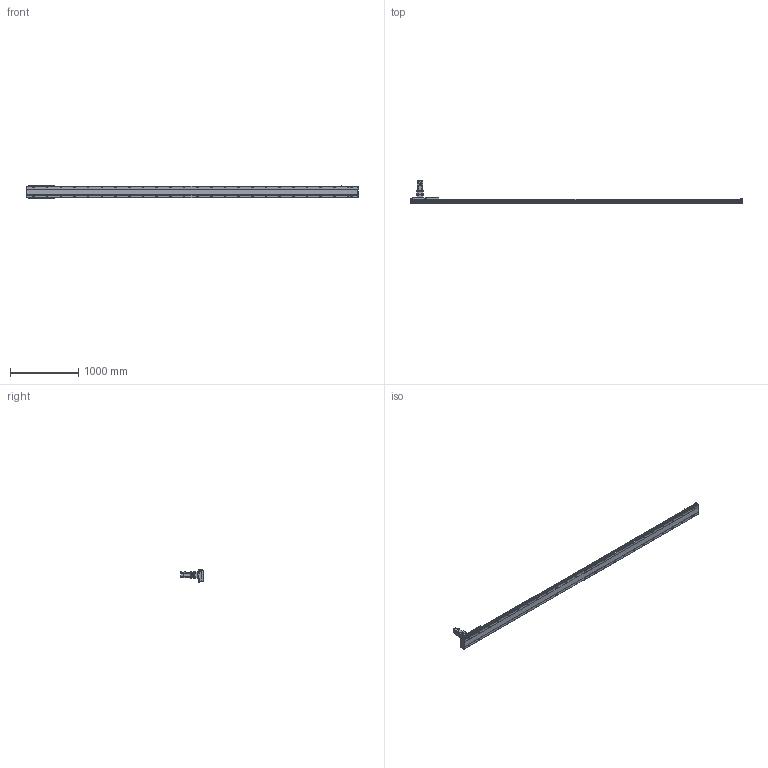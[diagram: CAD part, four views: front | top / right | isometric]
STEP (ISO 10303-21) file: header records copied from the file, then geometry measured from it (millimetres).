
FILE_DESCRIPTION(/* description */ ('STEP AP203'),/* implementation_level */ '2;1');
FILE_NAME(/* name */ 'SHS17A-L13-S4400-BC-T75-C1-N(0)',/* time_stamp */ '2023-03-27T08:59:11+02:00',/* author */ ('License CC BY-ND 4.0'),/* organization */ ('CADENAS'),/* preprocessor_version */ 'ST-DEVELOPER v19.3',/* originating_system */ 'PARTsolutions',/* authorisation */ ' ');
FILE_SCHEMA (('CONFIG_CONTROL_DESIGN'));
Length unit declared in the file: millimetre
Products named in the file (7): SHS17A-L13-S4400-BC-T75-C1-N(0); PSC140-sensor; SHS17A-S4400(0)_body2; T75-p1; SHS17A-S4400_body3; SHS17A-S4400-C1(0)_slider; SHS17A-S4400-C1(0)_body
Assembly tree (13 placements, depth 2):
  SHS17A-L13-S4400-BC-T75-C1-N(0)
    PSC140-sensor  x3
    SHS17A-S4400(0)_body2  x6
    T75-p1
    SHS17A-S4400_body3
    SHS17A-S4400-C1(0)_slider
    SHS17A-S4400-C1(0)_body
Bounding box: 4854 x 333.8 x 193.4 mm (x, y, z)
Volume: 32824556.1 mm3; surface area: 3753449.6 mm2
Topology: 13 solids, 13 shells, 2456 faces, 6276 edges, 4085 vertices
Faces by surface type: plane 1494, cylinder 855, cone 104, torus 3
Full cylindrical faces by diameter (mm): 2.8 x3, 4.134 x24, 4.5 x2, 4.6 x3, 4.917 x15, 5.5 x48, 6 x7, 6.5 x24, 6.647 x58, 6.8 x9, 8 x3, 8.5 x50, 10 x28, 11 x4, 14 x50, 22 x1, 24 x1, 24.2 x1, 28 x1, 28.2 x1, 28.8 x1, 29.8 x1, 48.542 x1, 68 x1, 70 x1, 78 x1, 80 x2
Entity records: 50654 total; most frequent: CARTESIAN_POINT 10238, DIRECTION 8173, ORIENTED_EDGE 7940, EDGE_CURVE 3970, AXIS2_PLACEMENT_3D 2932, VERTEX_POINT 2797, EDGE_LOOP 2377, FACE_BOUND 2377
